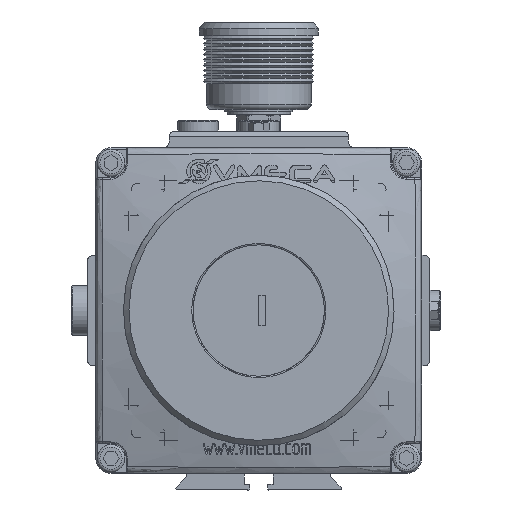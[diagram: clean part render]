
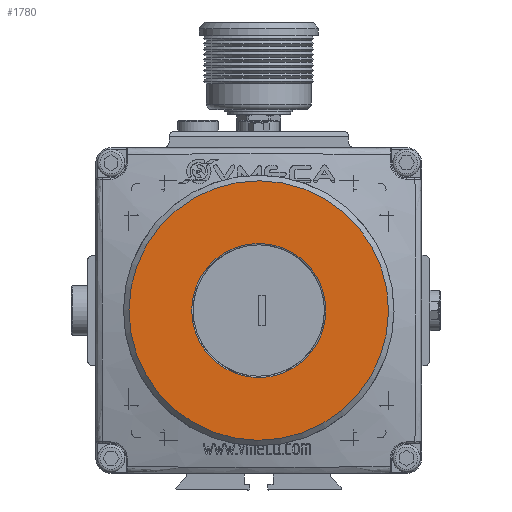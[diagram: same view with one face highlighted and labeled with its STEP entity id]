
A CAD part, left-side view. The second image highlights one B-rep face of the part: STEP entity #1780.
In plain terms, the highlighted planar face has unit normal (-1, 0, 0).
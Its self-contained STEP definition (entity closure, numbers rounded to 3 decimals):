
#1780 = ADVANCED_FACE( '', ( #5020, #5021 ), #5022, .F. );
#5020 = FACE_OUTER_BOUND( '', #10136, .T. );
#5021 = FACE_BOUND( '', #10137, .T. );
#5022 = PLANE( '', #10138 );
#10136 = EDGE_LOOP( '', ( #17435 ) );
#10137 = EDGE_LOOP( '', ( #17436 ) );
#10138 = AXIS2_PLACEMENT_3D( '', #17437, #17438, #17439 );
#17435 = ORIENTED_EDGE( '', *, *, #31298, .T. );
#17436 = ORIENTED_EDGE( '', *, *, #31299, .F. );
#17437 = CARTESIAN_POINT( '', ( -11., 0., 47. ) );
#17438 = DIRECTION( '', ( 1., 0., 0. ) );
#17439 = DIRECTION( '', ( 0., 1., 0. ) );
#31298 = EDGE_CURVE( '', #36640, #36640, #36641, .T. );
#31299 = EDGE_CURVE( '', #36642, #36642, #36643, .T. );
#36640 = VERTEX_POINT( '', #44468 );
#36641 = CIRCLE( '', #44469, 47. );
#36642 = VERTEX_POINT( '', #44470 );
#36643 = CIRCLE( '', #44471, 24.3 );
#44468 = CARTESIAN_POINT( '', ( -11., 0., 47. ) );
#44469 = AXIS2_PLACEMENT_3D( '', #58974, #58975, #58976 );
#44470 = CARTESIAN_POINT( '', ( -11., 0., 24.3 ) );
#44471 = AXIS2_PLACEMENT_3D( '', #58977, #58978, #58979 );
#58974 = CARTESIAN_POINT( '', ( -11., 0., 0. ) );
#58975 = DIRECTION( '', ( -1., 0., 0. ) );
#58976 = DIRECTION( '', ( 0., 0., 1. ) );
#58977 = CARTESIAN_POINT( '', ( -11., 0., 0. ) );
#58978 = DIRECTION( '', ( -1., 0., 0. ) );
#58979 = DIRECTION( '', ( 0., 0., 1. ) );
